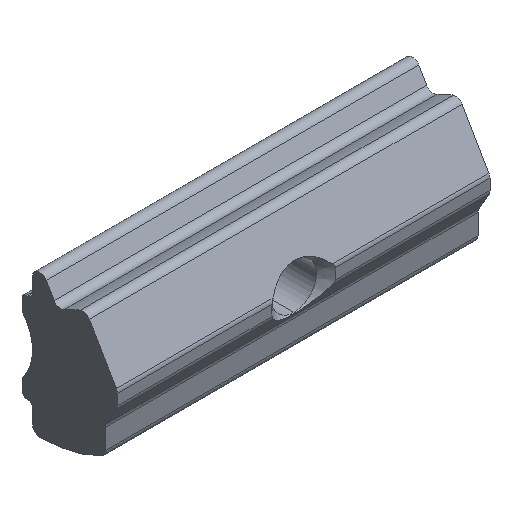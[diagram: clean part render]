
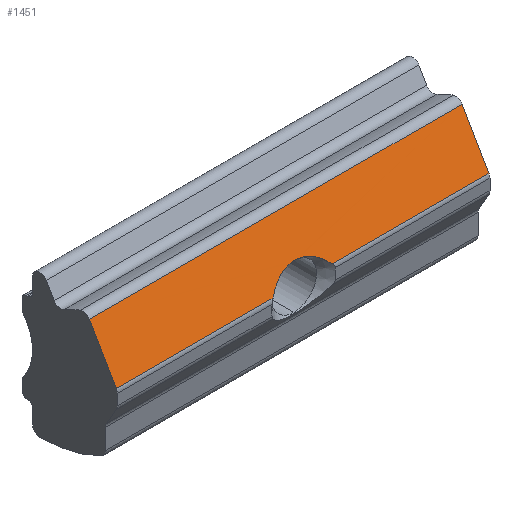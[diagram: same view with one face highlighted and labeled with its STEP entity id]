
A CAD part, isometric view. The second image highlights one B-rep face of the part: STEP entity #1451.
In plain terms, the highlighted planar face has unit normal (0, -0.866, 0.5).
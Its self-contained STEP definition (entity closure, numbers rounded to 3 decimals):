
#406=CARTESIAN_POINT('',(15.392,2.033,11.234));
#407=VERTEX_POINT('',#406);
#415=CARTESIAN_POINT('',(15.392,0.229,8.109));
#416=VERTEX_POINT('',#415);
#417=CARTESIAN_POINT('',(15.392,0.229,8.109));
#418=DIRECTION('',(0.0,0.5,0.866));
#419=VECTOR('',#418,3.608);
#420=LINE('',#417,#419);
#421=EDGE_CURVE('',#416,#407,#420,.T.);
#1181=CARTESIAN_POINT('',(4.884,0.229,8.109));
#1182=VERTEX_POINT('',#1181);
#1183=CARTESIAN_POINT('',(4.884,0.229,8.109));
#1184=DIRECTION('',(1.0,0.,0.));
#1185=VECTOR('',#1184,10.508);
#1186=LINE('',#1183,#1185);
#1187=EDGE_CURVE('',#1182,#416,#1186,.T.);
#1205=CARTESIAN_POINT('',(-9.608,2.033,11.234));
#1206=VERTEX_POINT('',#1205);
#1214=CARTESIAN_POINT('',(15.392,2.033,11.234));
#1215=DIRECTION('',(-1.0,0.0,0.0));
#1216=VECTOR('',#1215,25.0);
#1217=LINE('',#1214,#1216);
#1218=EDGE_CURVE('',#407,#1206,#1217,.T.);
#1230=CARTESIAN_POINT('',(-9.608,0.229,8.109));
#1231=VERTEX_POINT('',#1230);
#1240=CARTESIAN_POINT('',(0.9,0.229,8.109));
#1241=VERTEX_POINT('',#1240);
#1249=CARTESIAN_POINT('',(-9.608,0.229,8.109));
#1250=DIRECTION('',(1.0,0.,0.));
#1251=VECTOR('',#1250,10.508);
#1252=LINE('',#1249,#1251);
#1253=EDGE_CURVE('',#1231,#1241,#1252,.T.);
#1355=CARTESIAN_POINT('',(-9.608,2.033,11.234));
#1356=DIRECTION('',(0.0,-0.5,-0.866));
#1357=VECTOR('',#1356,3.608);
#1358=LINE('',#1355,#1357);
#1359=EDGE_CURVE('',#1206,#1231,#1358,.T.);
#1408=CARTESIAN_POINT('',(15.392,1.131,9.672));
#1409=DIRECTION('',(0.0,-0.866,0.5));
#1410=DIRECTION('',(1.0,0.0,0.0));
#1411=AXIS2_PLACEMENT_3D('',#1408,#1409,#1410);
#1412=PLANE('',#1411);
#1413=ORIENTED_EDGE('',*,*,#1359,.T.);
#1414=ORIENTED_EDGE('',*,*,#1253,.T.);
#1415=CARTESIAN_POINT('',(1.233,0.412,8.426));
#1416=VERTEX_POINT('',#1415);
#1417=CARTESIAN_POINT('',(0.9,0.229,8.109));
#1418=CARTESIAN_POINT('',(1.002,0.294,8.222));
#1419=CARTESIAN_POINT('',(1.113,0.355,8.328));
#1420=CARTESIAN_POINT('',(1.233,0.412,8.426));
#1421=B_SPLINE_CURVE_WITH_KNOTS('',3,(#1417,#1418,#1419,#1420),.UNSPECIFIED.,.F.,.U.,(4,4),(0.0,0.108),.UNSPECIFIED.);
#1422=EDGE_CURVE('',#1241,#1416,#1421,.T.);
#1423=ORIENTED_EDGE('',*,*,#1422,.T.);
#1424=CARTESIAN_POINT('',(2.892,0.768,9.044));
#1425=VERTEX_POINT('',#1424);
#1426=CARTESIAN_POINT('',(2.892,0.769,9.044));
#1427=CARTESIAN_POINT('',(2.498,0.769,9.044));
#1428=CARTESIAN_POINT('',(2.107,0.711,8.944));
#1429=CARTESIAN_POINT('',(1.766,0.612,8.773));
#1430=CARTESIAN_POINT('',(1.573,0.557,8.677));
#1431=CARTESIAN_POINT('',(1.395,0.489,8.559));
#1432=CARTESIAN_POINT('',(1.233,0.412,8.426));
#1433=B_SPLINE_CURVE_WITH_KNOTS('',3,(#1426,#1427,#1428,#1429,#1430,#1431,#1432),.UNSPECIFIED.,.F.,.U.,(4,3,4),(0.,0.639,1.0),.UNSPECIFIED.);
#1434=EDGE_CURVE('',#1425,#1416,#1433,.T.);
#1435=ORIENTED_EDGE('',*,*,#1434,.F.);
#1436=CARTESIAN_POINT('',(4.884,0.229,8.109));
#1437=CARTESIAN_POINT('',(4.613,0.402,8.408));
#1438=CARTESIAN_POINT('',(4.277,0.551,8.666));
#1439=CARTESIAN_POINT('',(3.884,0.649,8.836));
#1440=CARTESIAN_POINT('',(3.577,0.725,8.968));
#1441=CARTESIAN_POINT('',(3.236,0.769,9.044));
#1442=CARTESIAN_POINT('',(2.892,0.769,9.044));
#1443=B_SPLINE_CURVE_WITH_KNOTS('',3,(#1436,#1437,#1438,#1439,#1440,#1441,#1442),.UNSPECIFIED.,.F.,.U.,(4,3,4),(0.0,0.561,1.),.UNSPECIFIED.);
#1444=EDGE_CURVE('',#1182,#1425,#1443,.T.);
#1445=ORIENTED_EDGE('',*,*,#1444,.F.);
#1446=ORIENTED_EDGE('',*,*,#1187,.T.);
#1447=ORIENTED_EDGE('',*,*,#421,.T.);
#1448=ORIENTED_EDGE('',*,*,#1218,.T.);
#1449=EDGE_LOOP('',(#1413,#1414,#1423,#1435,#1445,#1446,#1447,#1448));
#1450=FACE_OUTER_BOUND('',#1449,.T.);
#1451=ADVANCED_FACE('',(#1450),#1412,.T.);
